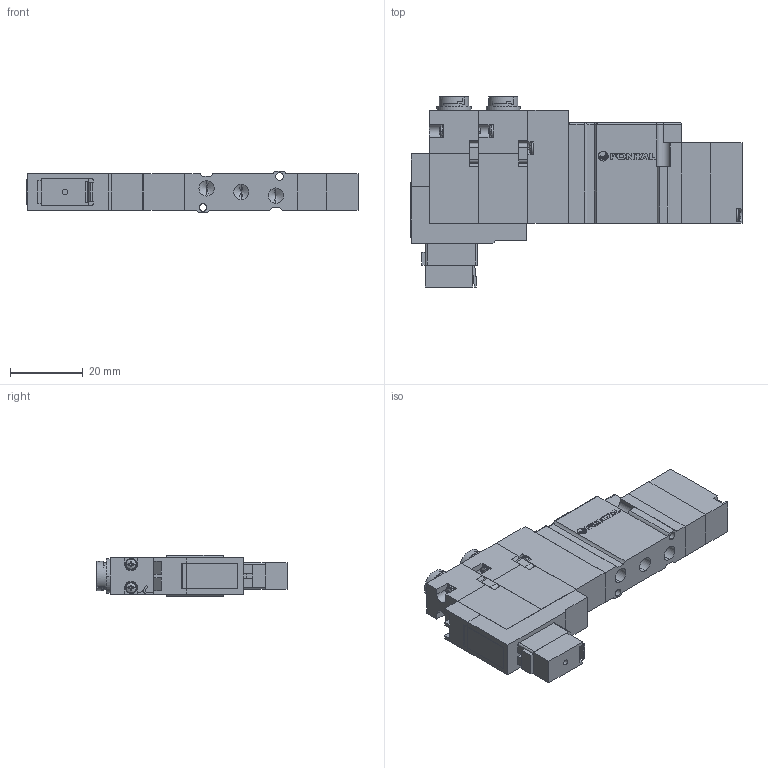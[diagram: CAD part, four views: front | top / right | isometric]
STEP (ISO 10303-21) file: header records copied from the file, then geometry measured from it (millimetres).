
FILE_DESCRIPTION (( 'STEP AP203' ), '1' );
FILE_NAME ('A05FD(E¡BO)35#-#Q-#-E.STEP', '2016-02-04T01:49:13', ( 'Sam Lin' ), ( '' ), 'SwSTEP 2.0', 'SolidWorks 2013', '' );
FILE_SCHEMA (( 'CONFIG_CONTROL_DESIGN' ));
Length unit declared in the file: metre
Products named in the file (15): A05FD(E、O)35#-#Q-#-E; A05RS25-5; A05RS25-6; DC24-A05F-1; A05RS25-1; DC24-A05F-2; ISO 7045 - M1.6 x 10; DC24-A05F-3; mark-ADEX-A05RS; DC24-A05F-4; A05FS25-2; A05FS25-4; A05RS25-3; A05FS25-5; A05RS25-4
Assembly tree (27 placements, depth 2):
  A05FD(E、O)35#-#Q-#-E
    A05RS25-1
    ISO 7045 - M1.6 x 10  x8
    mark-ADEX-A05RS
    A05FS25-2
    A05RS25-3  x2
    A05RS25-4  x2
    A05RS25-5  x2
    A05RS25-6  x4
    DC24-A05F-1
    DC24-A05F-2
    DC24-A05F-3
    DC24-A05F-4
    A05FS25-4
    A05FS25-5
Bounding box: 91 x 52.1 x 11.4 mm (x, y, z)
Volume: 26111.7 mm3; surface area: 16476.2 mm2
Topology: 35 solids, 35 shells, 906 faces, 2308 edges, 1464 vertices
Faces by surface type: plane 580, cylinder 174, cone 86, bspline 66
Entity records: 16877 total; most frequent: CARTESIAN_POINT 3331, ORIENTED_EDGE 2418, DIRECTION 2359, EDGE_CURVE 1209, VECTOR 889, LINE 889, VERTEX_POINT 791, AXIS2_PLACEMENT_3D 735
